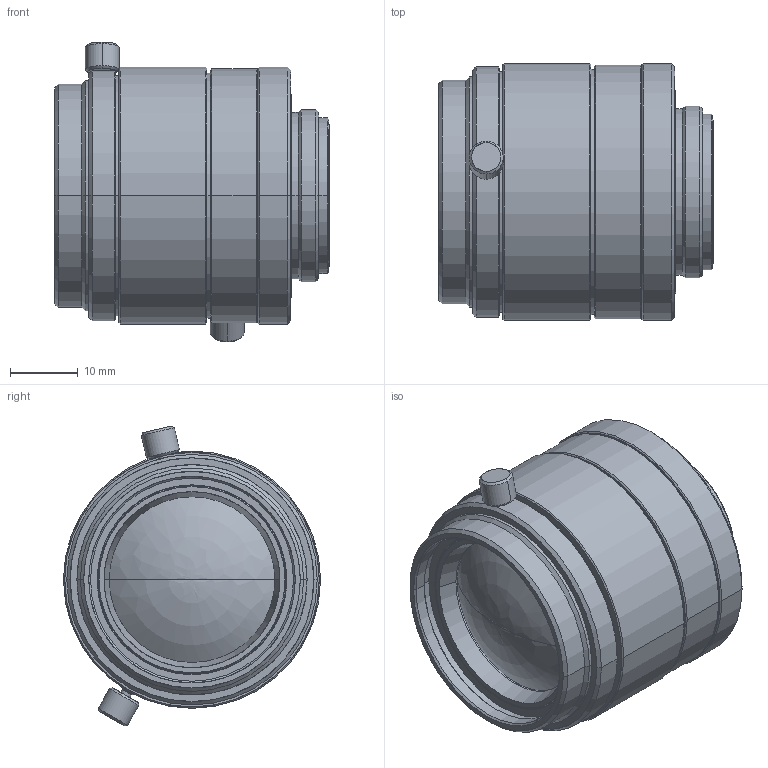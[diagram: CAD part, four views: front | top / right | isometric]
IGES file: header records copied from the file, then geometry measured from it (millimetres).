
Start section: SolidWorks IGES file using analytic representation for surfaces
Global section: file name: C:\Users\miura_vst\Desktop\H1價僗曄峏\VS-3514H1.IGS; native system: SolidWorks 2016; preprocessor: SolidWorks 2016; author: miura_vst; date: 161208.131303; units: millimetre
Bounding box: 40.52 x 38 x 44.32 mm (x, y, z)
Surface area: 7902.6 mm2 (no closed solid volume)
Topology: 0 solids, 0 shells, 116 faces, 2164 edges, 2163 vertices
Faces by surface type: revolution 98, bspline 18
